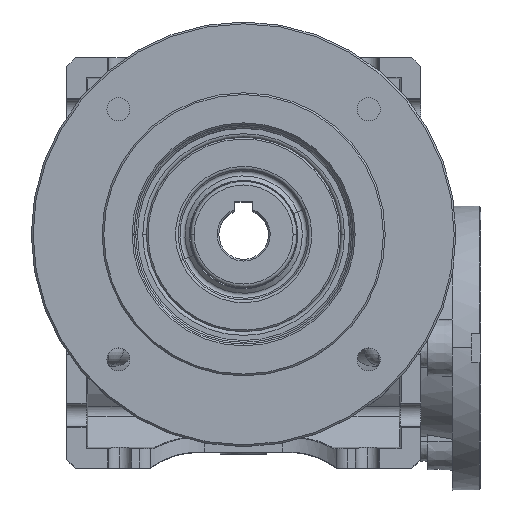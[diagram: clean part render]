
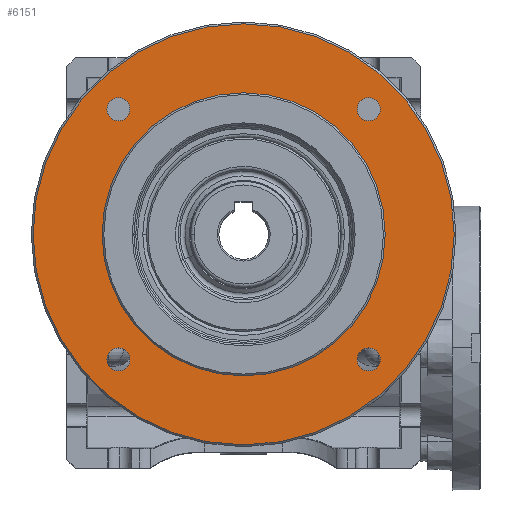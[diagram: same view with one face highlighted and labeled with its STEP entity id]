
A CAD part, top view. The second image highlights one B-rep face of the part: STEP entity #6151.
In plain terms, the highlighted planar face has unit normal (0, 0, 1).
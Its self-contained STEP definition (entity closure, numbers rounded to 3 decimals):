
#1058 = DIRECTION ( 'NONE',  ( 0., 0., -1. ) ) ;
#1240 = DIRECTION ( 'NONE',  ( 1., 0., 0. ) ) ;
#1308 = ORIENTED_EDGE ( 'NONE', *, *, #52926, .F. ) ;
#1529 = EDGE_CURVE ( 'NONE', #25985, #45571, #24499, .T. ) ;
#1796 = AXIS2_PLACEMENT_3D ( 'NONE', #16275, #36630, #1240 ) ;
#3121 = EDGE_LOOP ( 'NONE', ( #46239, #1308 ) ) ;
#3303 = CARTESIAN_POINT ( 'NONE',  ( -40., 0., 70. ) ) ;
#3656 = CARTESIAN_POINT ( 'NONE',  ( -35.355, -35.355, 70. ) ) ;
#4338 = CARTESIAN_POINT ( 'NONE',  ( 0., 60., 70. ) ) ;
#4815 = DIRECTION ( 'NONE',  ( 0., 0., 1. ) ) ;
#5084 = EDGE_CURVE ( 'NONE', #45571, #25985, #60580, .T. ) ;
#5341 = ORIENTED_EDGE ( 'NONE', *, *, #1529, .F. ) ;
#5702 = DIRECTION ( 'NONE',  ( 1., 0., 0. ) ) ;
#5982 = EDGE_CURVE ( 'NONE', #62869, #51462, #60771, .T. ) ;
#6151 = ADVANCED_FACE ( 'NONE', ( #44428, #59490, #34068, #54490, #8671, #49467 ), #64825, .F. ) ;
#6409 = CARTESIAN_POINT ( 'NONE',  ( 35.355, -35.355, 70. ) ) ;
#6615 = VERTEX_POINT ( 'NONE', #63375 ) ;
#6703 = EDGE_LOOP ( 'NONE', ( #45077, #65190 ) ) ;
#7044 = CIRCLE ( 'NONE', #12385, 3.25 ) ;
#7334 = EDGE_CURVE ( 'NONE', #51462, #62869, #20957, .T. ) ;
#8119 = EDGE_LOOP ( 'NONE', ( #43773, #40913 ) ) ;
#8346 = CIRCLE ( 'NONE', #33921, 3.25 ) ;
#8654 = DIRECTION ( 'NONE',  ( 0., 0., 1. ) ) ;
#8671 = FACE_OUTER_BOUND ( 'NONE', #8119, .T. ) ;
#12103 = EDGE_CURVE ( 'NONE', #62086, #64816, #39681, .T. ) ;
#12385 = AXIS2_PLACEMENT_3D ( 'NONE', #19087, #45815, #24097 ) ;
#12639 = CARTESIAN_POINT ( 'NONE',  ( 35.355, -35.355, 70. ) ) ;
#13153 = VERTEX_POINT ( 'NONE', #58626 ) ;
#13267 = ORIENTED_EDGE ( 'NONE', *, *, #23895, .F. ) ;
#13472 = VERTEX_POINT ( 'NONE', #3303 ) ;
#13872 = CIRCLE ( 'NONE', #45875, 3.25 ) ;
#15069 = CIRCLE ( 'NONE', #40668, 3.25 ) ;
#16275 = CARTESIAN_POINT ( 'NONE',  ( 35.355, 35.355, 70. ) ) ;
#17974 = ORIENTED_EDGE ( 'NONE', *, *, #12103, .F. ) ;
#19087 = CARTESIAN_POINT ( 'NONE',  ( -35.355, 35.355, 70. ) ) ;
#20401 = CARTESIAN_POINT ( 'NONE',  ( -38.605, -35.355, 70. ) ) ;
#20957 = CIRCLE ( 'NONE', #42323, 59.5 ) ;
#21183 = DIRECTION ( 'NONE',  ( 0., 0., -1. ) ) ;
#23376 = VERTEX_POINT ( 'NONE', #47929 ) ;
#23895 = EDGE_CURVE ( 'NONE', #47682, #13153, #47712, .T. ) ;
#24097 = DIRECTION ( 'NONE',  ( 1., 0., 0. ) ) ;
#24499 = CIRCLE ( 'NONE', #61868, 3.25 ) ;
#25360 = CARTESIAN_POINT ( 'NONE',  ( 38.605, -35.355, 70. ) ) ;
#25501 = EDGE_LOOP ( 'NONE', ( #34118, #13267 ) ) ;
#25529 = AXIS2_PLACEMENT_3D ( 'NONE', #46589, #21183, #47262 ) ;
#25985 = VERTEX_POINT ( 'NONE', #20401 ) ;
#25987 = CARTESIAN_POINT ( 'NONE',  ( -35.355, 35.355, 70. ) ) ;
#26116 = EDGE_LOOP ( 'NONE', ( #57228, #5341 ) ) ;
#26642 = CARTESIAN_POINT ( 'NONE',  ( -35.355, -35.355, 70. ) ) ;
#26969 = EDGE_CURVE ( 'NONE', #13472, #6615, #49048, .T. ) ;
#27094 = DIRECTION ( 'NONE',  ( 1., 0., 0. ) ) ;
#27400 = CARTESIAN_POINT ( 'NONE',  ( 0., 0., 70. ) ) ;
#27415 = EDGE_CURVE ( 'NONE', #64816, #62086, #13872, .T. ) ;
#31018 = DIRECTION ( 'NONE',  ( 0., 0., 1. ) ) ;
#31746 = AXIS2_PLACEMENT_3D ( 'NONE', #26642, #31018, #47072 ) ;
#33033 = AXIS2_PLACEMENT_3D ( 'NONE', #4338, #61122, #55790 ) ;
#33921 = AXIS2_PLACEMENT_3D ( 'NONE', #51517, #46479, #5702 ) ;
#34068 = FACE_BOUND ( 'NONE', #25501, .T. ) ;
#34118 = ORIENTED_EDGE ( 'NONE', *, *, #60992, .F. ) ;
#35413 = CARTESIAN_POINT ( 'NONE',  ( -59.5, 0., 70. ) ) ;
#36245 = CARTESIAN_POINT ( 'NONE',  ( 32.105, -35.355, 70. ) ) ;
#36630 = DIRECTION ( 'NONE',  ( 0., 0., 1. ) ) ;
#36753 = AXIS2_PLACEMENT_3D ( 'NONE', #56214, #1058, #41801 ) ;
#39376 = DIRECTION ( 'NONE',  ( 1., 0., 0. ) ) ;
#39681 = CIRCLE ( 'NONE', #41787, 3.25 ) ;
#40668 = AXIS2_PLACEMENT_3D ( 'NONE', #25987, #62118, #57444 ) ;
#40913 = ORIENTED_EDGE ( 'NONE', *, *, #7334, .T. ) ;
#41213 = EDGE_CURVE ( 'NONE', #6615, #13472, #65600, .T. ) ;
#41787 = AXIS2_PLACEMENT_3D ( 'NONE', #6409, #47516, #27094 ) ;
#41801 = DIRECTION ( 'NONE',  ( -1., 0., 0. ) ) ;
#41820 = DIRECTION ( 'NONE',  ( 0., 0., 1. ) ) ;
#42323 = AXIS2_PLACEMENT_3D ( 'NONE', #46857, #41820, #47852 ) ;
#43773 = ORIENTED_EDGE ( 'NONE', *, *, #5982, .T. ) ;
#44428 = FACE_BOUND ( 'NONE', #26116, .T. ) ;
#45077 = ORIENTED_EDGE ( 'NONE', *, *, #26969, .T. ) ;
#45443 = CARTESIAN_POINT ( 'NONE',  ( 32.105, 35.355, 70. ) ) ;
#45571 = VERTEX_POINT ( 'NONE', #56264 ) ;
#45815 = DIRECTION ( 'NONE',  ( 0., 0., 1. ) ) ;
#45875 = AXIS2_PLACEMENT_3D ( 'NONE', #12639, #61223, #46844 ) ;
#45943 = EDGE_CURVE ( 'NONE', #23376, #57442, #7044, .T. ) ;
#46239 = ORIENTED_EDGE ( 'NONE', *, *, #45943, .F. ) ;
#46323 = EDGE_LOOP ( 'NONE', ( #51352, #17974 ) ) ;
#46479 = DIRECTION ( 'NONE',  ( 0., 0., 1. ) ) ;
#46589 = CARTESIAN_POINT ( 'NONE',  ( 0., 0., 70. ) ) ;
#46844 = DIRECTION ( 'NONE',  ( 1., 0., 0. ) ) ;
#46857 = CARTESIAN_POINT ( 'NONE',  ( 0., 0., 70. ) ) ;
#47072 = DIRECTION ( 'NONE',  ( 1., 0., 0. ) ) ;
#47262 = DIRECTION ( 'NONE',  ( -1., 0., 0. ) ) ;
#47516 = DIRECTION ( 'NONE',  ( 0., 0., 1. ) ) ;
#47682 = VERTEX_POINT ( 'NONE', #45443 ) ;
#47712 = CIRCLE ( 'NONE', #1796, 3.25 ) ;
#47852 = DIRECTION ( 'NONE',  ( -1., 0., 0. ) ) ;
#47929 = CARTESIAN_POINT ( 'NONE',  ( -32.105, 35.355, 70. ) ) ;
#49048 = CIRCLE ( 'NONE', #25529, 40. ) ;
#49467 = FACE_BOUND ( 'NONE', #6703, .T. ) ;
#51176 = CARTESIAN_POINT ( 'NONE',  ( -38.605, 35.355, 70. ) ) ;
#51352 = ORIENTED_EDGE ( 'NONE', *, *, #27415, .F. ) ;
#51462 = VERTEX_POINT ( 'NONE', #62189 ) ;
#51517 = CARTESIAN_POINT ( 'NONE',  ( 35.355, 35.355, 70. ) ) ;
#52826 = DIRECTION ( 'NONE',  ( -1., 0., 0. ) ) ;
#52926 = EDGE_CURVE ( 'NONE', #57442, #23376, #15069, .T. ) ;
#54345 = AXIS2_PLACEMENT_3D ( 'NONE', #27400, #4815, #52826 ) ;
#54490 = FACE_BOUND ( 'NONE', #3121, .T. ) ;
#55790 = DIRECTION ( 'NONE',  ( -1., 0., 0. ) ) ;
#56214 = CARTESIAN_POINT ( 'NONE',  ( 0., 0., 70. ) ) ;
#56264 = CARTESIAN_POINT ( 'NONE',  ( -32.105, -35.355, 70. ) ) ;
#57228 = ORIENTED_EDGE ( 'NONE', *, *, #5084, .F. ) ;
#57442 = VERTEX_POINT ( 'NONE', #51176 ) ;
#57444 = DIRECTION ( 'NONE',  ( 1., 0., 0. ) ) ;
#58626 = CARTESIAN_POINT ( 'NONE',  ( 38.605, 35.355, 70. ) ) ;
#59490 = FACE_BOUND ( 'NONE', #46323, .T. ) ;
#60580 = CIRCLE ( 'NONE', #31746, 3.25 ) ;
#60771 = CIRCLE ( 'NONE', #54345, 59.5 ) ;
#60992 = EDGE_CURVE ( 'NONE', #13153, #47682, #8346, .T. ) ;
#61122 = DIRECTION ( 'NONE',  ( 0., 0., -1. ) ) ;
#61223 = DIRECTION ( 'NONE',  ( 0., 0., 1. ) ) ;
#61868 = AXIS2_PLACEMENT_3D ( 'NONE', #3656, #8654, #39376 ) ;
#62086 = VERTEX_POINT ( 'NONE', #36245 ) ;
#62118 = DIRECTION ( 'NONE',  ( 0., 0., 1. ) ) ;
#62189 = CARTESIAN_POINT ( 'NONE',  ( 59.5, 0., 70. ) ) ;
#62869 = VERTEX_POINT ( 'NONE', #35413 ) ;
#63375 = CARTESIAN_POINT ( 'NONE',  ( 40., 0., 70. ) ) ;
#64816 = VERTEX_POINT ( 'NONE', #25360 ) ;
#64825 = PLANE ( 'NONE',  #33033 ) ;
#65190 = ORIENTED_EDGE ( 'NONE', *, *, #41213, .T. ) ;
#65600 = CIRCLE ( 'NONE', #36753, 40. ) ;
